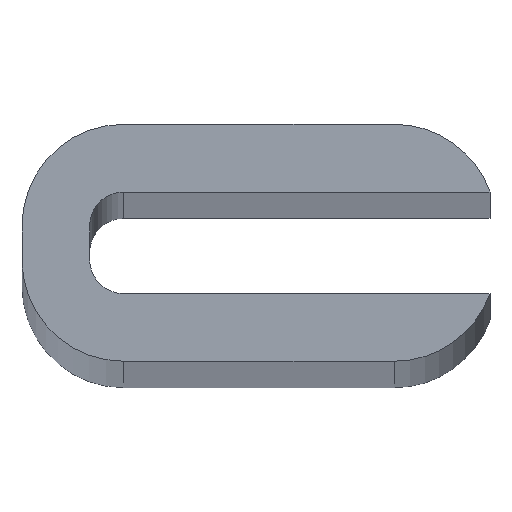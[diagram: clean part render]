
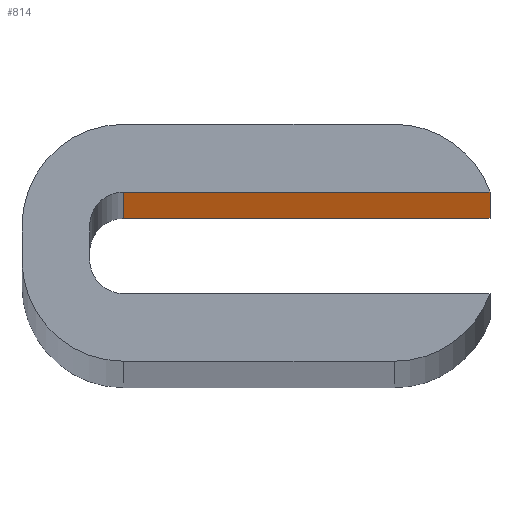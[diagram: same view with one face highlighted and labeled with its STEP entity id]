
A CAD part, top view. The second image highlights one B-rep face of the part: STEP entity #814.
In plain terms, the highlighted planar face has unit normal (0, -1, 0).
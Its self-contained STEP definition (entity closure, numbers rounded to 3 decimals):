
#44 = PLANE('',#45);
#45 = AXIS2_PLACEMENT_3D('',#46,#47,#48);
#46 = CARTESIAN_POINT('',(2.,271.,452.));
#47 = DIRECTION('',(0.,0.,1.));
#48 = DIRECTION('',(1.,0.,0.));
#100 = PLANE('',#101);
#101 = AXIS2_PLACEMENT_3D('',#102,#103,#104);
#102 = CARTESIAN_POINT('',(2.,271.,4.));
#103 = DIRECTION('',(0.,0.,1.));
#104 = DIRECTION('',(1.,0.,0.));
#309 = VERTEX_POINT('',#310);
#310 = CARTESIAN_POINT('',(5.,276.,452.));
#325 = CYLINDRICAL_SURFACE('',#326,1.);
#326 = AXIS2_PLACEMENT_3D('',#327,#328,#329);
#327 = CARTESIAN_POINT('',(5.,275.,3.));
#328 = DIRECTION('',(0.,0.,1.));
#329 = DIRECTION('',(-1.,-0.,0.));
#337 = EDGE_CURVE('',#338,#309,#340,.T.);
#338 = VERTEX_POINT('',#339);
#339 = CARTESIAN_POINT('',(15.828,276.,452.));
#340 = SURFACE_CURVE('',#341,(#345,#351),.PCURVE_S1.);
#341 = LINE('',#342,#343);
#342 = CARTESIAN_POINT('',(3.,276.,452.));
#343 = VECTOR('',#344,1.);
#344 = DIRECTION('',(-1.,0.,0.));
#345 = PCURVE('',#44,#346);
#346 = DEFINITIONAL_REPRESENTATION('',(#347),#350);
#347 = B_SPLINE_CURVE_WITH_KNOTS('',1,(#348,#349),.UNSPECIFIED.,.F.,.F.,
  (2,2),(-13.,-2.),.PIECEWISE_BEZIER_KNOTS.);
#348 = CARTESIAN_POINT('',(14.,5.));
#349 = CARTESIAN_POINT('',(3.,5.));
#350 = ( GEOMETRIC_REPRESENTATION_CONTEXT(2) 
PARAMETRIC_REPRESENTATION_CONTEXT() REPRESENTATION_CONTEXT('2D SPACE',''
  ) );
#351 = PCURVE('',#352,#357);
#352 = PLANE('',#353);
#353 = AXIS2_PLACEMENT_3D('',#354,#355,#356);
#354 = CARTESIAN_POINT('',(4.,276.,3.));
#355 = DIRECTION('',(0.,1.,0.));
#356 = DIRECTION('',(0.,0.,1.));
#357 = DEFINITIONAL_REPRESENTATION('',(#358),#361);
#358 = B_SPLINE_CURVE_WITH_KNOTS('',1,(#359,#360),.UNSPECIFIED.,.F.,.F.,
  (2,2),(-13.,-2.),.PIECEWISE_BEZIER_KNOTS.);
#359 = CARTESIAN_POINT('',(449.,12.));
#360 = CARTESIAN_POINT('',(449.,1.));
#361 = ( GEOMETRIC_REPRESENTATION_CONTEXT(2) 
PARAMETRIC_REPRESENTATION_CONTEXT() REPRESENTATION_CONTEXT('2D SPACE',''
  ) );
#380 = CYLINDRICAL_SURFACE('',#381,3.);
#381 = AXIS2_PLACEMENT_3D('',#382,#383,#384);
#382 = CARTESIAN_POINT('',(13.,275.,4.));
#383 = DIRECTION('',(0.,0.,1.));
#384 = DIRECTION('',(1.,0.,-0.));
#673 = VERTEX_POINT('',#674);
#674 = CARTESIAN_POINT('',(5.,276.,4.));
#696 = EDGE_CURVE('',#697,#673,#699,.T.);
#697 = VERTEX_POINT('',#698);
#698 = CARTESIAN_POINT('',(15.828,276.,4.));
#699 = SURFACE_CURVE('',#700,(#704,#710),.PCURVE_S1.);
#700 = LINE('',#701,#702);
#701 = CARTESIAN_POINT('',(3.,276.,4.));
#702 = VECTOR('',#703,1.);
#703 = DIRECTION('',(-1.,0.,0.));
#704 = PCURVE('',#100,#705);
#705 = DEFINITIONAL_REPRESENTATION('',(#706),#709);
#706 = B_SPLINE_CURVE_WITH_KNOTS('',1,(#707,#708),.UNSPECIFIED.,.F.,.F.,
  (2,2),(-13.,-2.),.PIECEWISE_BEZIER_KNOTS.);
#707 = CARTESIAN_POINT('',(14.,5.));
#708 = CARTESIAN_POINT('',(3.,5.));
#709 = ( GEOMETRIC_REPRESENTATION_CONTEXT(2) 
PARAMETRIC_REPRESENTATION_CONTEXT() REPRESENTATION_CONTEXT('2D SPACE',''
  ) );
#710 = PCURVE('',#352,#711);
#711 = DEFINITIONAL_REPRESENTATION('',(#712),#715);
#712 = B_SPLINE_CURVE_WITH_KNOTS('',1,(#713,#714),.UNSPECIFIED.,.F.,.F.,
  (2,2),(-13.,-2.),.PIECEWISE_BEZIER_KNOTS.);
#713 = CARTESIAN_POINT('',(1.,12.));
#714 = CARTESIAN_POINT('',(1.,1.));
#715 = ( GEOMETRIC_REPRESENTATION_CONTEXT(2) 
PARAMETRIC_REPRESENTATION_CONTEXT() REPRESENTATION_CONTEXT('2D SPACE',''
  ) );
#793 = EDGE_CURVE('',#697,#338,#794,.T.);
#794 = SURFACE_CURVE('',#795,(#799,#805),.PCURVE_S1.);
#795 = LINE('',#796,#797);
#796 = CARTESIAN_POINT('',(15.828,276.,4.));
#797 = VECTOR('',#798,1.);
#798 = DIRECTION('',(0.,0.,1.));
#799 = PCURVE('',#380,#800);
#800 = DEFINITIONAL_REPRESENTATION('',(#801),#804);
#801 = B_SPLINE_CURVE_WITH_KNOTS('',1,(#802,#803),.UNSPECIFIED.,.F.,.F.,
  (2,2),(0.,448.),.PIECEWISE_BEZIER_KNOTS.);
#802 = CARTESIAN_POINT('',(0.34,0.));
#803 = CARTESIAN_POINT('',(0.34,448.));
#804 = ( GEOMETRIC_REPRESENTATION_CONTEXT(2) 
PARAMETRIC_REPRESENTATION_CONTEXT() REPRESENTATION_CONTEXT('2D SPACE',''
  ) );
#805 = PCURVE('',#352,#806);
#806 = DEFINITIONAL_REPRESENTATION('',(#807),#810);
#807 = B_SPLINE_CURVE_WITH_KNOTS('',1,(#808,#809),.UNSPECIFIED.,.F.,.F.,
  (2,2),(0.,448.),.PIECEWISE_BEZIER_KNOTS.);
#808 = CARTESIAN_POINT('',(1.,11.828));
#809 = CARTESIAN_POINT('',(449.,11.828));
#810 = ( GEOMETRIC_REPRESENTATION_CONTEXT(2) 
PARAMETRIC_REPRESENTATION_CONTEXT() REPRESENTATION_CONTEXT('2D SPACE',''
  ) );
#814 = ADVANCED_FACE('',(#815),#352,.F.);
#815 = FACE_BOUND('',#816,.F.);
#816 = EDGE_LOOP('',(#817,#818,#839,#840));
#817 = ORIENTED_EDGE('',*,*,#696,.T.);
#818 = ORIENTED_EDGE('',*,*,#819,.T.);
#819 = EDGE_CURVE('',#673,#309,#820,.T.);
#820 = SURFACE_CURVE('',#821,(#825,#832),.PCURVE_S1.);
#821 = LINE('',#822,#823);
#822 = CARTESIAN_POINT('',(5.,276.,3.));
#823 = VECTOR('',#824,1.);
#824 = DIRECTION('',(0.,0.,1.));
#825 = PCURVE('',#352,#826);
#826 = DEFINITIONAL_REPRESENTATION('',(#827),#831);
#827 = LINE('',#828,#829);
#828 = CARTESIAN_POINT('',(0.,1.));
#829 = VECTOR('',#830,1.);
#830 = DIRECTION('',(1.,0.));
#831 = ( GEOMETRIC_REPRESENTATION_CONTEXT(2) 
PARAMETRIC_REPRESENTATION_CONTEXT() REPRESENTATION_CONTEXT('2D SPACE',''
  ) );
#832 = PCURVE('',#325,#833);
#833 = DEFINITIONAL_REPRESENTATION('',(#834),#838);
#834 = LINE('',#835,#836);
#835 = CARTESIAN_POINT('',(-1.571,0.));
#836 = VECTOR('',#837,1.);
#837 = DIRECTION('',(-0.,1.));
#838 = ( GEOMETRIC_REPRESENTATION_CONTEXT(2) 
PARAMETRIC_REPRESENTATION_CONTEXT() REPRESENTATION_CONTEXT('2D SPACE',''
  ) );
#839 = ORIENTED_EDGE('',*,*,#337,.F.);
#840 = ORIENTED_EDGE('',*,*,#793,.F.);
